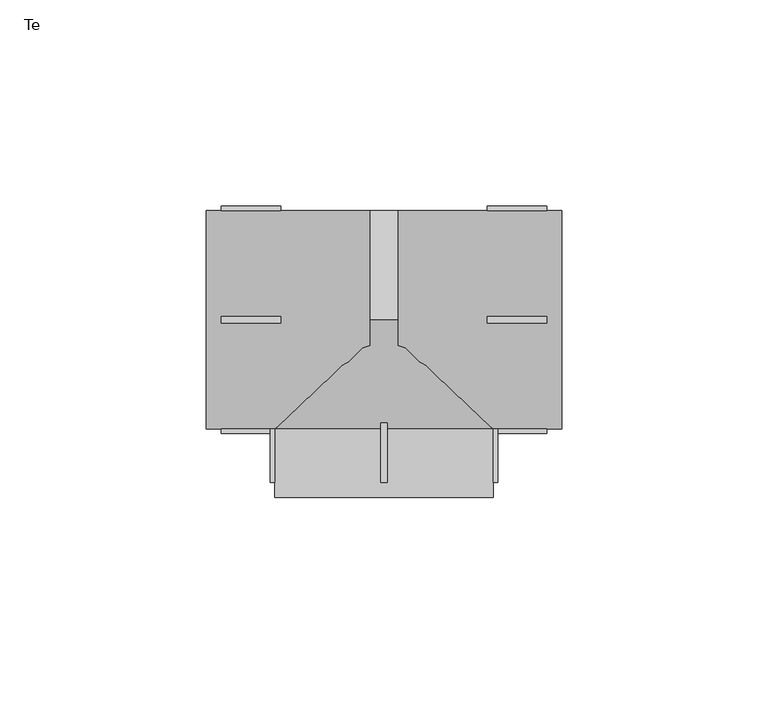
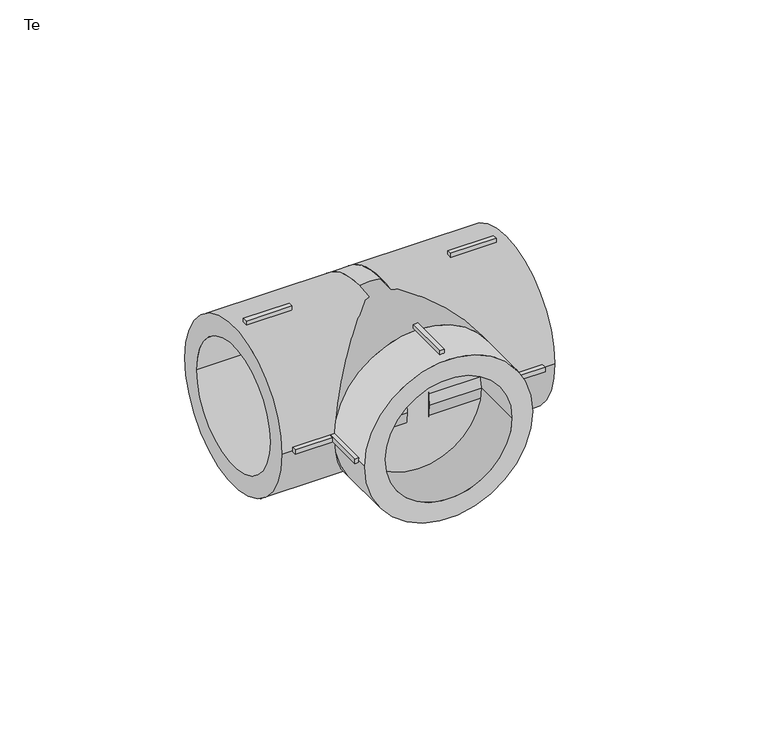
"""IFC4 building model written with IfcOpenShell, lengths in millimetres: pipe fitting geometry, EGB_VASEN_ PPR_Te WXR300_Te reducida WXR310 : Te."""

from ifc_helpers import new_model, si_unit, point, frame, origin, origin_2d, place, context, project, spatial, polyline, circle_curve, trimmed, segment, composite_curve, outline, extrude, source, transform, mapped, element, save


def te_e8e5ab5c(model_context):
    return source(origin(), model_context, "Body", "SweptSolid", [
        extrude(outline(polyline([(-0.75, -25.0), (0.75, -25.0), (0.75, -39.4), (-0.75, -39.4), (-0.75, -25.0)])), frame((0.0, 0.0, 25.5), z_axis=(0.0, 0.0, 1.0), x_axis=(1.0, 0.0, 0.0)), (0.0, 0.0, 1.0), 2.0),
        extrude(outline(polyline([(-0.75, -25.0), (0.75, -25.0), (0.75, -39.4), (-0.75, -39.4), (-0.75, -25.0)])), frame((0.0, 0.0, -27.5), z_axis=(0.0, 0.0, 1.0), x_axis=(1.0, 0.0, 0.0)), (0.0, 0.0, 1.0), 2.0),
        extrude(outline(polyline([(25.5, -25.0), (27.5, -25.0), (27.5, -39.4), (25.5, -39.4), (25.5, -25.0)])), frame((0.0, 0.0, -0.75), z_axis=(0.0, 0.0, 1.0), x_axis=(1.0, 0.0, 0.0)), (0.0, 0.0, 1.0), 1.5),
        extrude(outline(polyline([(-27.5, -25.0), (-25.5, -25.0), (-25.5, -39.4), (-27.5, -39.4), (-27.5, -25.0)])), frame((0.0, 0.0, -0.75), z_axis=(0.0, 0.0, 1.0), x_axis=(1.0, 0.0, 0.0)), (0.0, 0.0, 1.0), 1.5),
        extrude(outline(polyline([(25.0, -0.75), (25.0, 0.75), (39.4, 0.75), (39.4, -0.75), (25.0, -0.75)])), frame((0.0, 0.0, 25.5), z_axis=(0.0, 0.0, 1.0), x_axis=(1.0, 0.0, 0.0)), (0.0, 0.0, 1.0), 2.0),
        extrude(outline(polyline([(25.0, -0.75), (25.0, 0.75), (39.4, 0.75), (39.4, -0.75), (25.0, -0.75)])), frame((0.0, 0.0, -27.5), z_axis=(0.0, 0.0, 1.0), x_axis=(1.0, 0.0, 0.0)), (0.0, 0.0, 1.0), 2.0),
        extrude(outline(polyline([(25.0, 25.5), (25.0, 27.5), (39.4, 27.5), (39.4, 25.5), (25.0, 25.5)])), frame((0.0, 0.0, -0.75), z_axis=(0.0, 0.0, 1.0), x_axis=(1.0, 0.0, 0.0)), (0.0, 0.0, 1.0), 1.5),
        extrude(outline(polyline([(25.0, -27.5), (25.0, -25.5), (39.4, -25.5), (39.4, -27.5), (25.0, -27.5)])), frame((0.0, 0.0, -0.75), z_axis=(0.0, 0.0, 1.0), x_axis=(1.0, 0.0, 0.0)), (0.0, 0.0, 1.0), 1.5),
        extrude(outline(polyline([(-25.0, 0.75), (-25.0, -0.75), (-39.4, -0.75), (-39.4, 0.75), (-25.0, 0.75)])), frame((0.0, 0.0, 25.5), z_axis=(0.0, 0.0, 1.0), x_axis=(1.0, 0.0, 0.0)), (0.0, 0.0, 1.0), 2.0),
        extrude(outline(polyline([(-25.0, 0.75), (-25.0, -0.75), (-39.4, -0.75), (-39.4, 0.75), (-25.0, 0.75)])), frame((0.0, 0.0, -27.5), z_axis=(0.0, 0.0, 1.0), x_axis=(1.0, 0.0, 0.0)), (0.0, 0.0, 1.0), 2.0),
        extrude(outline(polyline([(-25.0, 27.5), (-25.0, 25.5), (-39.4, 25.5), (-39.4, 27.5), (-25.0, 27.5)])), frame((0.0, 0.0, -0.75), z_axis=(0.0, 0.0, 1.0), x_axis=(1.0, 0.0, 0.0)), (0.0, 0.0, 1.0), 1.5),
        extrude(outline(polyline([(-25.0, -25.5), (-25.0, -27.5), (-39.4, -27.5), (-39.4, -25.5), (-25.0, -25.5)])), frame((0.0, 0.0, -0.75), z_axis=(0.0, 0.0, 1.0), x_axis=(1.0, 0.0, 0.0)), (0.0, 0.0, 1.0), 1.5),
        extrude(outline(composite_curve([segment(trimmed(circle_curve(origin_2d(), 26.5), [point((0.0, 26.5))], [point((0.0, -26.5))], False, "CARTESIAN"), True, "CONTINUOUS"), segment(trimmed(circle_curve(origin_2d(), 26.5), [point((0.0, -26.5))], [point((0.0, 26.5))], False, "CARTESIAN"), True, "CONTINUOUS")], self_intersect=False), holes=[composite_curve([segment(trimmed(circle_curve(origin_2d(), 20.0), [point((0.0, 20.0))], [point((0.0, -20.0))], True, "CARTESIAN"), True, "CONTINUOUS"), segment(trimmed(circle_curve(origin_2d(), 20.0), [point((0.0, -20.0))], [point((0.0, 20.0))], True, "CARTESIAN"), True, "CONTINUOUS")], self_intersect=False)]), frame((0.0, -43.0, 0.0), z_axis=(0.0, 1.0, 0.0), x_axis=(0.0, 0.0, 1.0)), (0.0, 0.0, 1.0), 16.5),
        extrude(outline(composite_curve([segment(trimmed(circle_curve(origin_2d(), 26.5), [point((-26.5, 0.0))], [point((26.5, 0.0))], False, "CARTESIAN"), True, "CONTINUOUS"), segment(trimmed(circle_curve(origin_2d(), 26.5), [point((26.5, 0.0))], [point((-26.5, 0.0))], False, "CARTESIAN"), True, "CONTINUOUS")], self_intersect=False), holes=[composite_curve([segment(trimmed(circle_curve(origin_2d(), 20.0), [point((-20.0, 0.0))], [point((20.0, 0.0))], True, "CARTESIAN"), True, "CONTINUOUS"), segment(trimmed(circle_curve(origin_2d(), 20.0), [point((20.0, 0.0))], [point((-20.0, 0.0))], True, "CARTESIAN"), True, "CONTINUOUS")], self_intersect=False)]), frame((3.44, 0.0, 0.0), z_axis=(1.0, 0.0, 0.0), x_axis=(0.0, 1.0, 0.0)), (0.0, 0.0, 1.0), 39.56),
        extrude(outline(composite_curve([segment(trimmed(circle_curve(origin_2d(), 26.5), [point((-26.5, 0.0))], [point((26.5, 0.0))], False, "CARTESIAN"), True, "CONTINUOUS"), segment(trimmed(circle_curve(origin_2d(), 26.5), [point((26.5, 0.0))], [point((-26.5, 0.0))], False, "CARTESIAN"), True, "CONTINUOUS")], self_intersect=False), holes=[composite_curve([segment(trimmed(circle_curve(origin_2d(), 20.0), [point((-20.0, 0.0))], [point((20.0, 0.0))], True, "CARTESIAN"), True, "CONTINUOUS"), segment(trimmed(circle_curve(origin_2d(), 20.0), [point((20.0, 0.0))], [point((-20.0, 0.0))], True, "CARTESIAN"), True, "CONTINUOUS")], self_intersect=False)]), frame((-43.0, 0.0, 0.0), z_axis=(1.0, 0.0, 0.0), x_axis=(0.0, 1.0, 0.0)), (0.0, 0.0, 1.0), 39.56),
        extrude(outline(composite_curve([segment(trimmed(circle_curve(origin_2d(), 26.5), [point((0.0, 26.5))], [point((0.0, -26.5))], False, "CARTESIAN"), True, "CONTINUOUS"), segment(trimmed(circle_curve(origin_2d(), 26.5), [point((0.0, -26.5))], [point((0.0, 26.5))], False, "CARTESIAN"), True, "CONTINUOUS")], self_intersect=False)), frame((0.0, -26.5, 0.0), z_axis=(0.0, 1.0, 0.0), x_axis=(0.0, 0.0, 1.0)), (0.0, 0.0, 1.0), 26.5),
        extrude(outline(composite_curve([segment(trimmed(circle_curve(origin_2d(), 26.5), [point((-26.5, 0.0))], [point((26.5, 0.0))], False, "CARTESIAN"), True, "CONTINUOUS"), segment(trimmed(circle_curve(origin_2d(), 26.5), [point((26.5, 0.0))], [point((-26.5, 0.0))], False, "CARTESIAN"), True, "CONTINUOUS")], self_intersect=False)), frame((-3.44, 0.0, 0.0), z_axis=(1.0, 0.0, 0.0), x_axis=(0.0, 1.0, 0.0)), (0.0, 0.0, 1.0), 6.88),
    ])


if __name__ == "__main__":
    model = new_model("IFC4")
    model_context = context("Model", 3, world=origin())
    ifc_project = project(units=[si_unit("LENGTHUNIT", "METRE", prefix="MILLI")], contexts=[model_context])
    site = spatial("IfcSite", under=ifc_project)
    building = spatial("IfcBuilding", under=site)
    placement = place(None, origin())
    te_shape = te_e8e5ab5c(model_context)
    element("IfcPipeFitting", 1, ObjectType="EGB_VASEN_ PPR_Te WXR300_Te reducida WXR310 : Te", at=placement, inside=building, context=model_context, shape_type="MappedRepresentation", body=[
        mapped(te_shape, transform((0.0, 0.0, 0.0), x_axis=(1.0, 0.0, 0.0), y_axis=(0.0, 1.0, 0.0), z_axis=(0.0, 0.0, 1.0))),
    ])
    save(model, "model.ifc")
